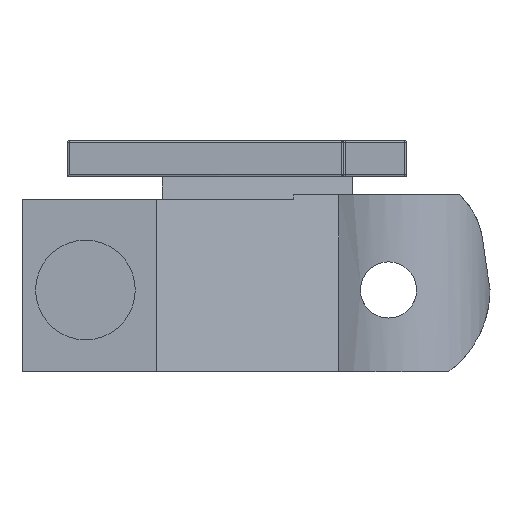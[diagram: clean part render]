
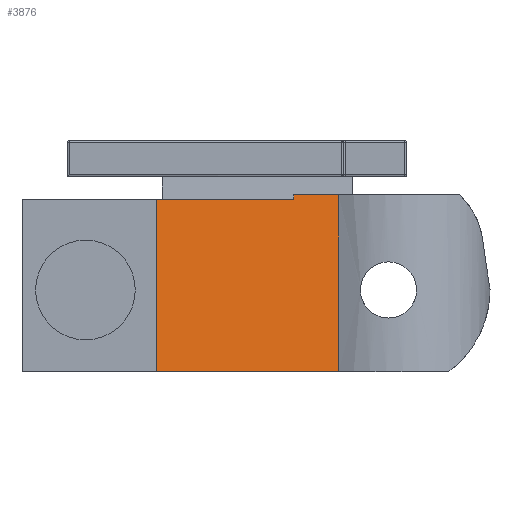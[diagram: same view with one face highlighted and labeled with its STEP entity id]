
A CAD part, front view. The second image highlights one B-rep face of the part: STEP entity #3876.
In plain terms, the highlighted planar face has unit normal (0.255, -0.967, 0).
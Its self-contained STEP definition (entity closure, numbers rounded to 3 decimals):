
#48 = DIRECTION ( 'NONE',  ( -0.967, -0.255, 0. ) ) ;
#77 = VECTOR ( 'NONE', #1957, 1000. ) ;
#123 = CARTESIAN_POINT ( 'NONE',  ( 9.113, -9.75, 36.5 ) ) ;
#146 = DIRECTION ( 'NONE',  ( 0.967, 0.255, 0. ) ) ;
#291 = LINE ( 'NONE', #2546, #77 ) ;
#334 = CARTESIAN_POINT ( 'NONE',  ( 9.113, -9.75, 17. ) ) ;
#376 = CARTESIAN_POINT ( 'NONE',  ( -11.025, -15.07, 36.5 ) ) ;
#407 = EDGE_CURVE ( 'NONE', #782, #2177, #291, .T. ) ;
#470 = CARTESIAN_POINT ( 'NONE',  ( -11.025, -15.07, 36.5 ) ) ;
#642 = ORIENTED_EDGE ( 'NONE', *, *, #4214, .F. ) ;
#655 = EDGE_CURVE ( 'NONE', #3419, #2177, #1502, .T. ) ;
#688 = LINE ( 'NONE', #376, #1871 ) ;
#782 = VERTEX_POINT ( 'NONE', #3895 ) ;
#809 = DIRECTION ( 'NONE',  ( 0.967, 0.255, 0. ) ) ;
#844 = CARTESIAN_POINT ( 'NONE',  ( 9.113, -9.75, 36.5 ) ) ;
#853 = VECTOR ( 'NONE', #809, 1000. ) ;
#855 = EDGE_CURVE ( 'NONE', #3917, #1430, #688, .T. ) ;
#918 = CARTESIAN_POINT ( 'NONE',  ( -11.025, -15.07, 36. ) ) ;
#1007 = FACE_OUTER_BOUND ( 'NONE', #2589, .T. ) ;
#1195 = VECTOR ( 'NONE', #2419, 1000. ) ;
#1339 = VECTOR ( 'NONE', #4072, 1000. ) ;
#1393 = EDGE_CURVE ( 'NONE', #1430, #782, #2610, .T. ) ;
#1430 = VERTEX_POINT ( 'NONE', #918 ) ;
#1502 = LINE ( 'NONE', #3137, #1339 ) ;
#1541 = ORIENTED_EDGE ( 'NONE', *, *, #655, .T. ) ;
#1693 = EDGE_CURVE ( 'NONE', #2544, #3419, #3460, .T. ) ;
#1801 = AXIS2_PLACEMENT_3D ( 'NONE', #470, #3703, #146 ) ;
#1871 = VECTOR ( 'NONE', #2984, 1000. ) ;
#1957 = DIRECTION ( 'NONE',  ( 0., 0., 1. ) ) ;
#2065 = ORIENTED_EDGE ( 'NONE', *, *, #1393, .F. ) ;
#2129 = CARTESIAN_POINT ( 'NONE',  ( 4.175, -11.055, 36.5 ) ) ;
#2160 = ORIENTED_EDGE ( 'NONE', *, *, #855, .F. ) ;
#2177 = VERTEX_POINT ( 'NONE', #2129 ) ;
#2335 = CARTESIAN_POINT ( 'NONE',  ( 9.113, -9.75, 17. ) ) ;
#2348 = LINE ( 'NONE', #334, #3358 ) ;
#2419 = DIRECTION ( 'NONE',  ( 0., 0., 1. ) ) ;
#2544 = VERTEX_POINT ( 'NONE', #2335 ) ;
#2546 = CARTESIAN_POINT ( 'NONE',  ( 4.175, -11.055, 36. ) ) ;
#2589 = EDGE_LOOP ( 'NONE', ( #3794, #2065, #2160, #642, #3927, #1541 ) ) ;
#2610 = LINE ( 'NONE', #2762, #853 ) ;
#2762 = CARTESIAN_POINT ( 'NONE',  ( -11.025, -15.07, 36. ) ) ;
#2771 = PLANE ( 'NONE',  #1801 ) ;
#2984 = DIRECTION ( 'NONE',  ( 0., 0., 1. ) ) ;
#3137 = CARTESIAN_POINT ( 'NONE',  ( 9.113, -9.75, 36.5 ) ) ;
#3358 = VECTOR ( 'NONE', #48, 1000. ) ;
#3419 = VERTEX_POINT ( 'NONE', #844 ) ;
#3460 = LINE ( 'NONE', #123, #1195 ) ;
#3703 = DIRECTION ( 'NONE',  ( 0.255, -0.967, 0. ) ) ;
#3794 = ORIENTED_EDGE ( 'NONE', *, *, #407, .F. ) ;
#3876 = ADVANCED_FACE ( 'NONE', ( #1007 ), #2771, .T. ) ;
#3895 = CARTESIAN_POINT ( 'NONE',  ( 4.175, -11.055, 36. ) ) ;
#3917 = VERTEX_POINT ( 'NONE', #4148 ) ;
#3927 = ORIENTED_EDGE ( 'NONE', *, *, #1693, .T. ) ;
#4072 = DIRECTION ( 'NONE',  ( -0.967, -0.255, 0. ) ) ;
#4148 = CARTESIAN_POINT ( 'NONE',  ( -11.025, -15.07, 17. ) ) ;
#4214 = EDGE_CURVE ( 'NONE', #2544, #3917, #2348, .T. ) ;
